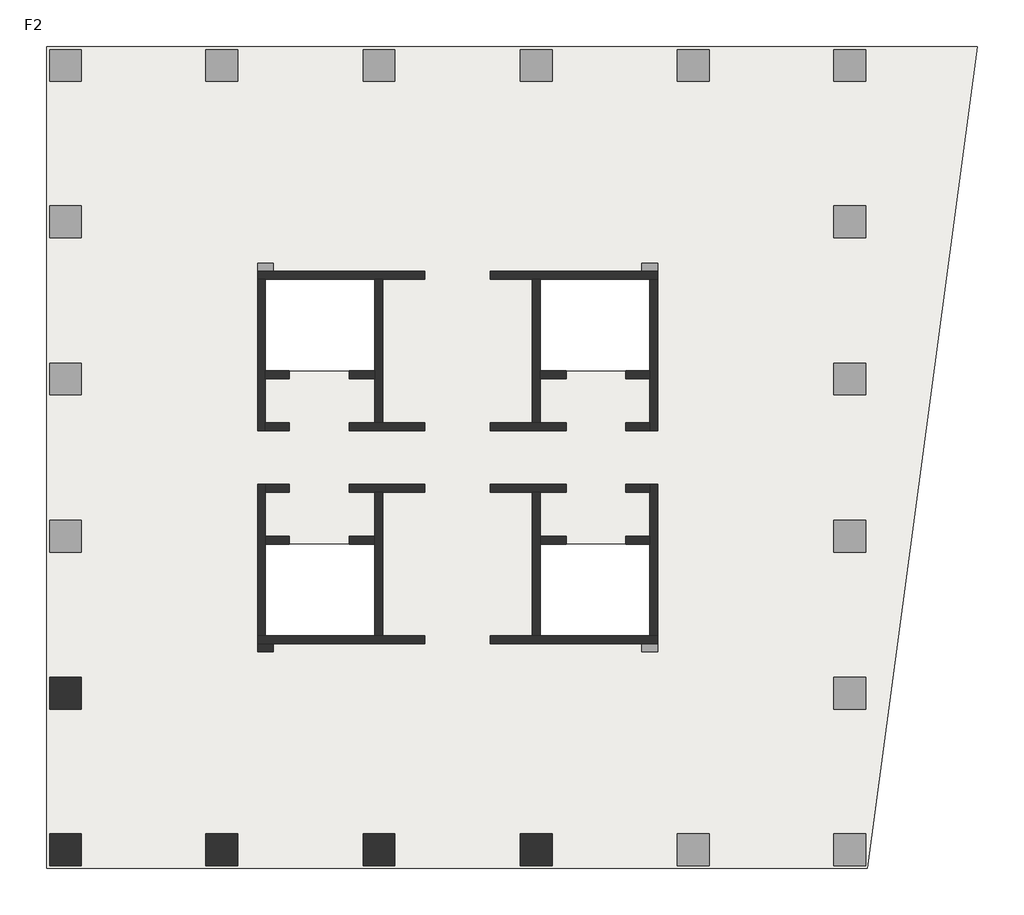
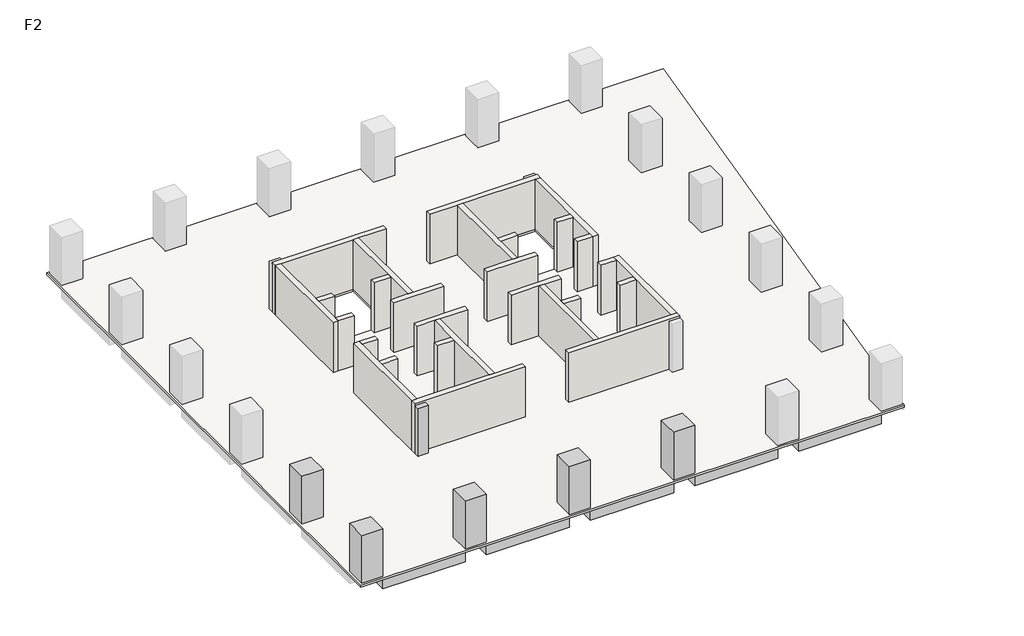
# One storey, part 1 of 2: 28 walls, 6 columns, 5 beams, 1 slab.
"""IFC4 building model written with IfcOpenShell, lengths in millimetres."""

import ifcopenshell
import ifcopenshell.guid

model = None  # the IFC model being written
_history = None  # IfcOwnerHistory: only IFC2X3 demands one
_inside = {}  # id of a spatial element -> (the spatial element, [elements in it])
_under = {}  # id of a project, library or spatial element -> (it, [spatial elements below it])
_declared = {}  # id of a project -> (the project, [libraries it declares])
_typed = {}  # id of a type object -> (the type object, [elements of that type])
_made_of = {}  # id of a material, layer set ... -> (it, [elements and type objects made of it])


def new_model(schema):
    """Start an empty IFC model of exactly this schema.

    Asked for "IFC4X3", IfcOpenShell would pick the latest addendum, in which some entities
    have other attributes; the version numbers below select the first issue.
    IFC2X3 requires an IfcOwnerHistory on every rooted entity: one is made here for all.
    """
    global model, _history
    if schema == "IFC4X3":
        model = ifcopenshell.file(schema_version=(4, 3, 0, 0))
    else:
        model = ifcopenshell.file(schema=schema)
    _inside.clear()
    _under.clear()
    _declared.clear()
    _typed.clear()
    _made_of.clear()
    _history = None
    if model.schema == "IFC2X3":
        org = make("IfcOrganization", Name="unknown")
        user = make(
            "IfcPersonAndOrganization",
            ThePerson=make("IfcPerson", FamilyName="unknown"),
            TheOrganization=org,
        )
        app = make(
            "IfcApplication",
            ApplicationDeveloper=org,
            Version="unknown",
            ApplicationFullName="unknown",
            ApplicationIdentifier="unknown",
        )
        _history = make(
            "IfcOwnerHistory",
            OwningUser=user,
            OwningApplication=app,
            ChangeAction="ADDED",
            CreationDate=0,
        )
    return model


def make(cls, **values):
    """One entity of the class cls with the attributes given. An attribute that is None is left unset."""
    return model.create_entity(
        cls, **{name: value for name, value in values.items() if value is not None}
    )


def rooted(cls, **values):
    """An entity with a GlobalId (a new one), such as an element, a storey or a relation."""
    return make(cls, GlobalId=ifcopenshell.guid.new(), OwnerHistory=_history, **values)


def si_unit(unit_type, name, prefix=None):
    """IfcSIUnit, for example si_unit("LENGTHUNIT", "METRE", prefix="MILLI")."""
    return make("IfcSIUnit", UnitType=unit_type, Prefix=prefix, Name=name)


def assignment(units):
    """IfcUnitAssignment: the units of a project."""
    return None if units is None else make("IfcUnitAssignment", Units=units)


def point(xyz):
    """IfcCartesianPoint."""
    return None if xyz is None else make("IfcCartesianPoint", Coordinates=xyz)


def direction(xyz):
    """IfcDirection."""
    return None if xyz is None else make("IfcDirection", DirectionRatios=xyz)


def frame(location, z_axis=None, x_axis=None):
    """IfcAxis2Placement3D, a coordinate frame: its origin and axes. An axis left out is left unset."""
    return make(
        "IfcAxis2Placement3D",
        Location=point(location),
        Axis=direction(z_axis),
        RefDirection=direction(x_axis),
    )


def origin():
    """The frame at (0, 0, 0) with its axes left unset."""
    return frame((0.0, 0.0, 0.0))


def place(relative_to, where):
    """IfcLocalPlacement: puts the frame where relative to a parent placement (None: the world)."""
    return make(
        "IfcLocalPlacement", PlacementRelTo=relative_to, RelativePlacement=where
    )


def context(
    kind, dimensions, precision=None, world=None, true_north=None, identifier=None
):
    """IfcGeometricRepresentationContext, for example the 3D "Model" context."""
    return make(
        "IfcGeometricRepresentationContext",
        ContextIdentifier=identifier,
        ContextType=kind,
        CoordinateSpaceDimension=dimensions,
        Precision=precision,
        WorldCoordinateSystem=world,
        TrueNorth=true_north,
    )


def project(units=None, contexts=None):
    """IfcProject with its units and contexts."""
    return rooted(
        "IfcProject",
        Name="project",
        RepresentationContexts=contexts,
        UnitsInContext=assignment(units),
    )


def spatial(cls, under=None, at=None, **own):
    """A site, building, storey or space (cls), placed at a placement, below another one or the project."""
    s = rooted(cls, ObjectPlacement=at, **own)
    if under is not None:
        _under.setdefault(under.id(), (under, []))[1].append(s)
    return s


def polyline(points):
    """IfcPolyline through the points."""
    return make("IfcPolyline", Points=[point(p) for p in points])


def outline(outer, holes=None, kind="AREA"):
    """IfcArbitraryClosedProfileDef: a profile drawn as a closed curve; with holes, ...WithVoids."""
    if holes is None:
        return make("IfcArbitraryClosedProfileDef", ProfileType=kind, OuterCurve=outer)
    return make(
        "IfcArbitraryProfileDefWithVoids",
        ProfileType=kind,
        OuterCurve=outer,
        InnerCurves=holes,
    )


def extrude(swept, where, along, depth):
    """IfcExtrudedAreaSolid: the profile swept, set in the frame where, extruded along a direction by depth."""
    return make(
        "IfcExtrudedAreaSolid",
        SweptArea=swept,
        Position=where,
        ExtrudedDirection=direction(along),
        Depth=depth,
    )


def faces_of(points, faces, orient=None, outer=None):
    """IfcFace entities. A face is a list of loops; a loop is a list of indices into points, from 0.

    orient and outer hold one flag for each loop. By default every Orientation is true, the
    first loop of a face is its IfcFaceOuterBound and the others are IfcFaceBound.
    """
    made = []
    for i, loops in enumerate(faces):
        bounds = []
        for j, loop in enumerate(loops):
            is_outer = j == 0 if outer is None else outer[i][j]
            bounds.append(
                make(
                    "IfcFaceOuterBound" if is_outer else "IfcFaceBound",
                    Bound=make("IfcPolyLoop", Polygon=[points[k] for k in loop]),
                    Orientation=True if orient is None else orient[i][j],
                )
            )
        made.append(make("IfcFace", Bounds=bounds))
    return made


def faceted_brep(points, faces, orient=None, outer=None, voids=None):
    """IfcFacetedBrep: a solid bounded by flat faces; with voids (closed shells), ...WithVoids."""
    shared = [point(p) for p in points]
    hull = make("IfcClosedShell", CfsFaces=faces_of(shared, faces, orient, outer))
    if voids is None:
        return make("IfcFacetedBrep", Outer=hull)
    return make(
        "IfcFacetedBrepWithVoids",
        Outer=hull,
        Voids=[
            make(cls, CfsFaces=faces_of(shared, fs, o, b)) for cls, fs, o, b in voids
        ],
    )


def shape(context_of_items, identifier, shape_type, items):
    """IfcShapeRepresentation: the items that make up one representation, for example the "Body"."""
    return make(
        "IfcShapeRepresentation",
        ContextOfItems=context_of_items,
        RepresentationIdentifier=identifier,
        RepresentationType=shape_type,
        Items=items,
    )


def made_of(thing, what):
    """Note that an element or type object is made of a material, layer set ...; save() writes the relation."""
    if what is not None:
        _made_of.setdefault(what.id(), (what, []))[1].append(thing)
    return thing


def element(
    cls,
    number,
    at=None,
    inside=None,
    cuts=None,
    type_object=None,
    material=None,
    context=None,
    identifier="Body",
    shape_type=None,
    held_by="IfcProductDefinitionShape",
    body=None,
    shapes=None,
    **own,
):
    """One element of the class cls, such as IfcWall. Its Tag is "e" and its number.

    at: its placement. inside: the storey or other place that contains it. cuts: it is an
    opening in that element (IfcRelVoidsElement). A single representation is given by context,
    identifier, shape_type and body (its items); several are given by shapes. held_by: the class
    of the entity that holds the representations. save() writes the other relations.
    """
    e = rooted(cls, Tag="e%d" % number, ObjectPlacement=at, **own)
    if body is not None:
        shapes = [shape(context, identifier, shape_type, body)]
    if shapes is not None:
        e.Representation = make(held_by, Representations=shapes)
    if inside is not None:
        _inside.setdefault(inside.id(), (inside, []))[1].append(e)
    if cuts is not None:
        rooted(
            "IfcRelVoidsElement", RelatingBuildingElement=cuts, RelatedOpeningElement=e
        )
    if type_object is not None:
        _typed.setdefault(type_object.id(), (type_object, []))[1].append(e)
    return made_of(e, material)


def aggregate(whole, parts):
    """IfcRelAggregates: a whole, such as a stair, and the parts it consists of."""
    return rooted("IfcRelAggregates", RelatingObject=whole, RelatedObjects=parts)


def save(model, path):
    """Write the relations noted so far, then the file.

    IfcRelAggregates (storeys below a building ...), IfcRelContainedInSpatialStructure (elements
    in a storey), IfcRelDefinesByType, IfcRelAssociatesMaterial and IfcRelDeclares: one each for
    every whole, place, type object, material and project.
    """
    for whole, parts in _under.values():
        aggregate(whole, parts)
    for where, things in _inside.values():
        rooted(
            "IfcRelContainedInSpatialStructure",
            RelatedElements=things,
            RelatingStructure=where,
        )
    for kind, things in _typed.values():
        rooted("IfcRelDefinesByType", RelatedObjects=things, RelatingType=kind)
    for what, things in _made_of.values():
        rooted("IfcRelAssociatesMaterial", RelatedObjects=things, RelatingMaterial=what)
    for by, libraries in _declared.values():
        rooted("IfcRelDeclares", RelatingContext=by, RelatedDefinitions=libraries)
    model.write(path)


model = new_model("IFC4")

# Units and contexts
model_context = context("Model", 3, world=origin())
ifc_project = project(units=[si_unit("LENGTHUNIT", "METRE", prefix="MILLI")], contexts=[model_context])

# Site, building, storey
site = spatial("IfcSite", under=ifc_project)
building = spatial("IfcBuilding", under=site)
storey = spatial("IfcBuildingStorey", under=building, Name="F2", Elevation=8000.0)

# Beams
placement = place(None, origin())
element("IfcBeam", 1, ObjectType="混凝土 - 矩形梁 : KL(5)-800x1000", at=placement, inside=storey, context=model_context, shape_type="SweptSolid", body=[
    extrude(outline(polyline([(-12472.6742169, -13948.9501342), (-12472.6742169, -13148.9501342), (-6222.6742169, -13148.9501342), (-6222.6742169, -13948.9501342), (-12472.6742169, -13948.9501342)])), frame((0.0, 0.0, 7000.0), z_axis=(0.0, 0.0, 1.0), x_axis=(1.0, 0.0, 0.0)), (0.0, 0.0, 1.0), 840.0),
    extrude(outline(polyline([(25327.3257831, -13148.9501342), (25327.3257831, -13948.9501342), (19077.3257831, -13948.9501342), (19077.3257831, -13148.9501342), (25327.3257831, -13148.9501342)])), frame((0.0, 0.0, 7000.0), z_axis=(0.0, 0.0, 1.0), x_axis=(1.0, 0.0, 0.0)), (0.0, 0.0, 1.0), 840.0),
    extrude(outline(polyline([(-4622.6742169, -13948.9501342), (-4622.6742169, -13148.9501342), (1677.3257831, -13148.9501342), (1677.3257831, -13948.9501342), (-4622.6742169, -13948.9501342)])), frame((0.0, 0.0, 7000.0), z_axis=(0.0, 0.0, 1.0), x_axis=(1.0, 0.0, 0.0)), (0.0, 0.0, 1.0), 840.0),
    extrude(outline(polyline([(3277.3257831, -13948.9501342), (3277.3257831, -13148.9501342), (9577.3257831, -13148.9501342), (9577.3257831, -13948.9501342), (3277.3257831, -13948.9501342)])), frame((0.0, 0.0, 7000.0), z_axis=(0.0, 0.0, 1.0), x_axis=(1.0, 0.0, 0.0)), (0.0, 0.0, 1.0), 840.0),
    extrude(outline(polyline([(11177.3257831, -13948.9501342), (11177.3257831, -13148.9501342), (17477.3257831, -13148.9501342), (17477.3257831, -13948.9501342), (11177.3257831, -13948.9501342)])), frame((0.0, 0.0, 7000.0), z_axis=(0.0, 0.0, 1.0), x_axis=(1.0, 0.0, 0.0)), (0.0, 0.0, 1.0), 840.0),
])
element("IfcBeam", 2, ObjectType="混凝土 - 矩形梁 : L1-800x500", at=placement, inside=storey, context=model_context, shape_type="Brep", body=[
    faceted_brep([(-12472.6742169, -5512.1353397, 7500.0), (-3746.9473979, -3341.556529, 7500.0), (-3173.6696907, -3198.9501342, 7500.0), (-3173.6696907, -3198.9501342, 7840.0), (-3746.9473979, -3341.556529, 7840.0), (-12472.6742169, -5512.1353397, 7840.0), (-3622.6742169, -3198.9501342, 7500.0), (-12472.6742169, -4687.7549784, 7500.0), (-3622.6742169, -2486.2624411, 7500.0), (-3622.6742169, -2798.9501342, 7500.0), (-12472.6742169, -4687.7549784, 7840.0), (-3622.6742169, -2486.2624411, 7840.0), (-3622.6742169, -3198.9501342, 7840.0)], [[[0, 1, 2, 3, 4, 5]], [[6, 2, 1, 0, 7, 8, 9]], [[8, 7, 10, 11]], [[2, 6, 12, 3]], [[9, 8, 11, 12, 6]], [[7, 0, 5, 10]], [[5, 4, 3, 12, 11, 10]]]),
])
element("IfcBeam", 3, ObjectType="混凝土 - 矩形梁 : L1-800x500", at=placement, inside=storey, context=model_context, shape_type="SweptSolid", body=[
    extrude(outline(polyline([(-3746.9473979, -3341.556529), (-3173.6696907, -3198.9501342), (-2898.7618154, -3198.9501342), (-4843.6893517, -12348.9501342), (-5661.5624638, -12348.9501342), (-3746.9473979, -3341.556529)])), frame((0.0, 0.0, 7500.0), z_axis=(0.0, 0.0, 1.0), x_axis=(1.0, 0.0, 0.0)), (0.0, 0.0, 1.0), 340.0),
])
element("IfcBeam", 4, ObjectType="混凝土 - 矩形梁 : L1-800x500", at=placement, inside=storey, context=model_context, shape_type="SweptSolid", body=[
    extrude(outline(polyline([(2877.3257831, -12348.9501342), (2077.3257831, -12348.9501342), (2077.3257831, -2798.9501342), (2877.3257831, -2798.9501342), (2877.3257831, -12348.9501342)])), frame((0.0, 0.0, 7500.0), z_axis=(0.0, 0.0, 1.0), x_axis=(1.0, 0.0, 0.0)), (0.0, 0.0, 1.0), 340.0),
])
element("IfcBeam", 5, ObjectType="混凝土 - 矩形梁 : L1-800x500", at=placement, inside=storey, context=model_context, shape_type="SweptSolid", body=[
    extrude(outline(polyline([(10777.3257831, -12348.9501342), (9977.3257831, -12348.9501342), (9977.3257831, -2798.9501342), (10777.3257831, -2798.9501342), (10777.3257831, -12348.9501342)])), frame((0.0, 0.0, 7500.0), z_axis=(0.0, 0.0, 1.0), x_axis=(1.0, 0.0, 0.0)), (0.0, 0.0, 1.0), 340.0),
])

# Columns
element("IfcColumn", 6, ObjectType="混凝土 - 矩形 - 柱 : Z1-1600x1600", at=placement, inside=storey, context=model_context, shape_type="Brep", body=[
    faceted_brep([(-12472.6742169, -4498.9501342, 8000.0), (-12472.6742169, -6098.9501342, 8000.0), (-14072.6742169, -6098.9501342, 8000.0), (-14072.6742169, -4498.9501342, 8000.0), (-12472.6742169, -4498.9501342, 11840.0), (-12472.6742169, -6098.9501342, 11840.0), (-13272.6742169, -6098.9501342, 11840.0), (-14072.6742169, -6098.9501342, 11840.0), (-14072.6742169, -6098.9501342, 11000.0), (-14072.6742169, -4498.9501342, 11840.0), (-14072.6742169, -4498.9501342, 11000.0), (-13272.6742169, -4498.9501342, 11840.0)], [[[0, 1, 2, 3]], [[1, 0, 4, 5]], [[2, 1, 5, 6, 7, 8]], [[3, 2, 8, 7, 9, 10]], [[0, 3, 10, 9, 11, 4]], [[5, 4, 11, 9, 7, 6]]]),
])
element("IfcColumn", 7, ObjectType="混凝土 - 矩形 - 柱 : Z1-1600x1600", at=placement, inside=storey, context=model_context, shape_type="SweptSolid", body=[
    extrude(outline(polyline([(-12472.6742169, -12348.9501342), (-12472.6742169, -13948.9501342), (-14072.6742169, -13948.9501342), (-14072.6742169, -12348.9501342), (-12472.6742169, -12348.9501342)])), frame((0.0, 0.0, 8000.0), z_axis=(0.0, 0.0, 1.0), x_axis=(1.0, 0.0, 0.0)), (0.0, 0.0, 1.0), 3840.0),
])
element("IfcColumn", 8, ObjectType="混凝土 - 矩形 - 柱 : Z1-1600x1600", at=placement, inside=storey, context=model_context, shape_type="Brep", body=[
    faceted_brep([(-4622.6742169, -12348.9501342, 8000.0), (-4622.6742169, -13948.9501342, 8000.0), (-6222.6742169, -13948.9501342, 8000.0), (-6222.6742169, -12348.9501342, 8000.0), (-4622.6742169, -12348.9501342, 11840.0), (-4622.6742169, -13148.9501342, 11840.0), (-4622.6742169, -13948.9501342, 11840.0), (-4622.6742169, -13948.9501342, 11000.0), (-6222.6742169, -13948.9501342, 11840.0), (-6222.6742169, -13948.9501342, 11000.0), (-6222.6742169, -13148.9501342, 11840.0), (-6222.6742169, -12348.9501342, 11840.0)], [[[0, 1, 2, 3]], [[1, 0, 4, 5, 6, 7]], [[2, 1, 7, 6, 8, 9]], [[3, 2, 9, 8, 10, 11]], [[0, 3, 11, 4]], [[6, 5, 4, 11, 10, 8]]]),
])
element("IfcColumn", 9, ObjectType="混凝土 - 矩形 - 柱 : Z1-1600x1600", at=placement, inside=storey, context=model_context, shape_type="Brep", body=[
    faceted_brep([(3277.3257831, -12348.9501342, 8000.0), (3277.3257831, -13948.9501342, 8000.0), (1677.3257831, -13948.9501342, 8000.0), (1677.3257831, -12348.9501342, 8000.0), (3277.3257831, -12348.9501342, 11840.0), (3277.3257831, -13148.9501342, 11840.0), (3277.3257831, -13948.9501342, 11840.0), (3277.3257831, -13948.9501342, 11000.0), (1677.3257831, -13948.9501342, 11840.0), (1677.3257831, -13948.9501342, 11000.0), (1677.3257831, -13148.9501342, 11840.0), (1677.3257831, -12348.9501342, 11840.0)], [[[0, 1, 2, 3]], [[1, 0, 4, 5, 6, 7]], [[2, 1, 7, 6, 8, 9]], [[3, 2, 9, 8, 10, 11]], [[0, 3, 11, 4]], [[6, 5, 4, 11, 10, 8]]]),
])
element("IfcColumn", 10, ObjectType="混凝土 - 矩形 - 柱 : Z1-1600x1600", at=placement, inside=storey, context=model_context, shape_type="Brep", body=[
    faceted_brep([(11177.3257831, -12348.9501342, 8000.0), (11177.3257831, -13948.9501342, 8000.0), (9577.3257831, -13948.9501342, 8000.0), (9577.3257831, -12348.9501342, 8000.0), (11177.3257831, -12348.9501342, 11840.0), (11177.3257831, -13148.9501342, 11840.0), (11177.3257831, -13948.9501342, 11840.0), (11177.3257831, -13948.9501342, 11000.0), (9577.3257831, -13948.9501342, 11840.0), (9577.3257831, -13948.9501342, 11000.0), (9577.3257831, -13148.9501342, 11840.0), (9577.3257831, -12348.9501342, 11840.0)], [[[0, 1, 2, 3]], [[1, 0, 4, 5, 6, 7]], [[2, 1, 7, 6, 8, 9]], [[3, 2, 9, 8, 10, 11]], [[0, 3, 11, 4]], [[6, 5, 4, 11, 10, 8]]]),
])
element("IfcColumn", 11, ObjectType="混凝土 - 矩形 - 柱 : Z2-800x800", at=placement, inside=storey, context=model_context, shape_type="SweptSolid", body=[
    extrude(outline(polyline([(-2822.6742169, -3198.9501342), (-3622.6742169, -3198.9501342), (-3622.6742169, -2798.9501342), (-2822.6742169, -2798.9501342), (-2822.6742169, -3198.9501342)])), frame((0.0, 0.0, 8000.0), z_axis=(0.0, 0.0, 1.0), x_axis=(1.0, 0.0, 0.0)), (0.0, 0.0, 1.0), 3840.0),
])

# Slab
element("IfcSlab", 12, ObjectType="LB-160", at=placement, inside=storey, context=model_context, shape_type="Brep", body=[
    faceted_brep([(32549.4477343, 27201.0498658, 7840.0), (32422.0087099, 26251.0498658, 7840.0), (27029.3257831, -13948.9501342, 7840.0), (27011.0393465, -14085.2672073, 7840.0), (-14222.6742169, -14085.2672073, 7840.0), (-14222.6742169, 27201.0498658, 7840.0), (2277.3257831, 15501.0498658, 7840.0), (-3222.6742169, 15501.0498658, 7840.0), (-3222.6742169, 10901.0498658, 7840.0), (2277.3257831, 10901.0498658, 7840.0), (2277.3257831, 2201.0498658, 7840.0), (-3222.6742169, 2201.0498658, 7840.0), (-3222.6742169, -2398.9501342, 7840.0), (2277.3257831, -2398.9501342, 7840.0), (16077.3257831, 2201.0498658, 7840.0), (10577.3257831, 2201.0498658, 7840.0), (10577.3257831, -2398.9501342, 7840.0), (16077.3257831, -2398.9501342, 7840.0), (16077.3257831, 15501.0498658, 7840.0), (10577.3257831, 15501.0498658, 7840.0), (10577.3257831, 10901.0498658, 7840.0), (16077.3257831, 10901.0498658, 7840.0), (32549.4477343, 27201.0498658, 8000.0), (-14222.6742169, 27201.0498658, 8000.0), (-14222.6742169, -14085.2672073, 8000.0), (27011.0393465, -14085.2672073, 8000.0), (2277.3257831, 15501.0498658, 8000.0), (2277.3257831, 10901.0498658, 8000.0), (-3222.6742169, 10901.0498658, 8000.0), (-3222.6742169, 15501.0498658, 8000.0), (2277.3257831, 2201.0498658, 8000.0), (2277.3257831, -2398.9501342, 8000.0), (-3222.6742169, -2398.9501342, 8000.0), (-3222.6742169, 2201.0498658, 8000.0), (16077.3257831, 2201.0498658, 8000.0), (16077.3257831, -2398.9501342, 8000.0), (10577.3257831, -2398.9501342, 8000.0), (10577.3257831, 2201.0498658, 8000.0), (16077.3257831, 15501.0498658, 8000.0), (16077.3257831, 10901.0498658, 8000.0), (10577.3257831, 10901.0498658, 8000.0), (10577.3257831, 15501.0498658, 8000.0)], [[[0, 1, 2, 3, 4, 5], [6, 7, 8, 9], [10, 11, 12, 13], [14, 15, 16, 17], [18, 19, 20, 21]], [[22, 23, 24, 25], [26, 27, 28, 29], [30, 31, 32, 33], [34, 35, 36, 37], [38, 39, 40, 41]], [[3, 2, 1, 0, 22, 25]], [[4, 3, 25, 24]], [[5, 4, 24, 23]], [[0, 5, 23, 22]], [[7, 6, 26, 29]], [[8, 7, 29, 28]], [[9, 8, 28, 27]], [[6, 9, 27, 26]], [[11, 10, 30, 33]], [[12, 11, 33, 32]], [[13, 12, 32, 31]], [[10, 13, 31, 30]], [[15, 14, 34, 37]], [[16, 15, 37, 36]], [[17, 16, 36, 35]], [[14, 17, 35, 34]], [[19, 18, 38, 41]], [[20, 19, 41, 40]], [[21, 20, 40, 39]], [[18, 21, 39, 38]]]),
])

# Walls
element("IfcWall", 13, ObjectType="剪力墙-400", at=placement, inside=storey, context=model_context, shape_type="Brep", body=[
    faceted_brep([(-3622.6742169, 15501.0498658, 8000.0), (-3222.6742169, 15501.0498658, 8000.0), (2277.3257831, 15501.0498658, 8000.0), (2677.3257831, 15501.0498658, 8000.0), (4777.3257831, 15501.0498658, 8000.0), (4777.3257831, 15501.0498658, 12000.0), (2677.3257831, 15501.0498658, 12000.0), (2277.3257831, 15501.0498658, 12000.0), (-3222.6742169, 15501.0498658, 12000.0), (-3622.6742169, 15501.0498658, 12000.0), (-3622.6742169, 15901.0498658, 8000.0), (-3622.6742169, 15901.0498658, 11840.0), (-3622.6742169, 15901.0498658, 12000.0), (4777.3257831, 15901.0498658, 12000.0), (4777.3257831, 15901.0498658, 8000.0), (-2822.6742169, 15901.0498658, 8000.0)], [[[0, 1, 2, 3, 4, 5, 6, 7, 8, 9]], [[10, 11, 12, 13, 14, 15]], [[4, 3, 2, 1, 0, 10, 15, 14]], [[5, 4, 14, 13]], [[9, 8, 7, 6, 5, 13, 12]], [[0, 9, 12, 11, 10]]]),
])
element("IfcWall", 14, ObjectType="剪力墙-400", at=placement, inside=storey, context=model_context, shape_type="Brep", body=[
    faceted_brep([(2277.3257831, 15501.0498658, 8000.0), (2277.3257831, 10901.0498658, 8000.0), (2277.3257831, 10501.0498658, 8000.0), (2277.3257831, 8301.0498658, 8000.0), (2277.3257831, 8301.0498658, 12000.0), (2277.3257831, 10501.0498658, 12000.0), (2277.3257831, 10901.0498658, 12000.0), (2277.3257831, 15501.0498658, 12000.0), (2677.3257831, 15501.0498658, 8000.0), (2677.3257831, 15501.0498658, 12000.0), (2677.3257831, 8301.0498658, 12000.0), (2677.3257831, 8301.0498658, 8000.0)], [[[0, 1, 2, 3, 4, 5, 6, 7]], [[8, 9, 10, 11]], [[3, 2, 1, 0, 8, 11]], [[7, 6, 5, 4, 10, 9]], [[0, 7, 9, 8]], [[4, 3, 11, 10]]]),
])
element("IfcWall", 15, ObjectType="剪力墙-400", at=placement, inside=storey, context=model_context, shape_type="Brep", body=[
    faceted_brep([(-3622.6742169, 15501.0498658, 8000.0), (-3622.6742169, 7901.0498658, 8000.0), (-3622.6742169, 7901.0498658, 12000.0), (-3622.6742169, 15501.0498658, 12000.0), (-3222.6742169, 15501.0498658, 8000.0), (-3222.6742169, 15501.0498658, 12000.0), (-3222.6742169, 10901.0498658, 12000.0), (-3222.6742169, 10501.0498658, 12000.0), (-3222.6742169, 8301.0498658, 12000.0), (-3222.6742169, 7901.0498658, 12000.0), (-3222.6742169, 7901.0498658, 8000.0), (-3222.6742169, 8301.0498658, 8000.0), (-3222.6742169, 10501.0498658, 8000.0), (-3222.6742169, 10901.0498658, 8000.0)], [[[0, 1, 2, 3]], [[4, 5, 6, 7, 8, 9, 10, 11, 12, 13]], [[1, 0, 4, 13, 12, 11, 10]], [[3, 2, 9, 8, 7, 6, 5]], [[0, 3, 5, 4]], [[2, 1, 10, 9]]]),
])
element("IfcWall", 16, ObjectType="剪力墙-400", at=placement, inside=storey, context=model_context, shape_type="SweptSolid", body=[
    extrude(outline(polyline([(-2022.6742169, 7901.0498658), (-3222.6742169, 7901.0498658), (-3222.6742169, 8301.0498658), (-2022.6742169, 8301.0498658), (-2022.6742169, 7901.0498658)])), frame((0.0, 0.0, 8000.0), z_axis=(0.0, 0.0, 1.0), x_axis=(1.0, 0.0, 0.0)), (0.0, 0.0, 1.0), 4000.0),
])
element("IfcWall", 17, ObjectType="剪力墙-400", at=placement, inside=storey, context=model_context, shape_type="Brep", body=[
    faceted_brep([(977.3257831, 7901.0498658, 8000.0), (4777.3257831, 7901.0498658, 8000.0), (4777.3257831, 7901.0498658, 12000.0), (977.3257831, 7901.0498658, 12000.0), (977.3257831, 8301.0498658, 8000.0), (977.3257831, 8301.0498658, 12000.0), (2277.3257831, 8301.0498658, 12000.0), (2677.3257831, 8301.0498658, 12000.0), (4777.3257831, 8301.0498658, 12000.0), (4777.3257831, 8301.0498658, 8000.0), (2677.3257831, 8301.0498658, 8000.0), (2277.3257831, 8301.0498658, 8000.0)], [[[0, 1, 2, 3]], [[4, 5, 6, 7, 8, 9, 10, 11]], [[1, 0, 4, 11, 10, 9]], [[2, 1, 9, 8]], [[3, 2, 8, 7, 6, 5]], [[0, 3, 5, 4]]]),
])
element("IfcWall", 18, ObjectType="剪力墙-400", at=placement, inside=storey, context=model_context, shape_type="SweptSolid", body=[
    extrude(outline(polyline([(-2022.6742169, 10501.0498658), (-3222.6742169, 10501.0498658), (-3222.6742169, 10901.0498658), (-2022.6742169, 10901.0498658), (-2022.6742169, 10501.0498658)])), frame((0.0, 0.0, 8000.0), z_axis=(0.0, 0.0, 1.0), x_axis=(1.0, 0.0, 0.0)), (0.0, 0.0, 1.0), 4000.0),
])
element("IfcWall", 19, ObjectType="剪力墙-400", at=placement, inside=storey, context=model_context, shape_type="SweptSolid", body=[
    extrude(outline(polyline([(2277.3257831, 10501.0498658), (977.3257831, 10501.0498658), (977.3257831, 10901.0498658), (2277.3257831, 10901.0498658), (2277.3257831, 10501.0498658)])), frame((0.0, 0.0, 8000.0), z_axis=(0.0, 0.0, 1.0), x_axis=(1.0, 0.0, 0.0)), (0.0, 0.0, 1.0), 4000.0),
])
element("IfcWall", 20, ObjectType="剪力墙-400", at=placement, inside=storey, context=model_context, shape_type="Brep", body=[
    faceted_brep([(16477.3257831, 15901.0498658, 8000.0), (15677.3257831, 15901.0498658, 8000.0), (8077.3257831, 15901.0498658, 8000.0), (8077.3257831, 15901.0498658, 12000.0), (16477.3257831, 15901.0498658, 12000.0), (16477.3257831, 15901.0498658, 11840.0), (16477.3257831, 15501.0498658, 8000.0), (16477.3257831, 15501.0498658, 12000.0), (16077.3257831, 15501.0498658, 12000.0), (10577.3257831, 15501.0498658, 12000.0), (10177.3257831, 15501.0498658, 12000.0), (8077.3257831, 15501.0498658, 12000.0), (8077.3257831, 15501.0498658, 8000.0), (10177.3257831, 15501.0498658, 8000.0), (10577.3257831, 15501.0498658, 8000.0), (16077.3257831, 15501.0498658, 8000.0)], [[[0, 1, 2, 3, 4, 5]], [[6, 7, 8, 9, 10, 11, 12, 13, 14, 15]], [[2, 1, 0, 6, 15, 14, 13, 12]], [[3, 2, 12, 11]], [[4, 3, 11, 10, 9, 8, 7]], [[0, 5, 4, 7, 6]]]),
])
element("IfcWall", 21, ObjectType="剪力墙-400", at=placement, inside=storey, context=model_context, shape_type="Brep", body=[
    faceted_brep([(10177.3257831, 15501.0498658, 8000.0), (10177.3257831, 8301.0498658, 8000.0), (10177.3257831, 8301.0498658, 12000.0), (10177.3257831, 15501.0498658, 12000.0), (10577.3257831, 15501.0498658, 8000.0), (10577.3257831, 15501.0498658, 12000.0), (10577.3257831, 10901.0498658, 12000.0), (10577.3257831, 10501.0498658, 12000.0), (10577.3257831, 8301.0498658, 12000.0), (10577.3257831, 8301.0498658, 8000.0), (10577.3257831, 10501.0498658, 8000.0), (10577.3257831, 10901.0498658, 8000.0)], [[[0, 1, 2, 3]], [[4, 5, 6, 7, 8, 9, 10, 11]], [[1, 0, 4, 11, 10, 9]], [[3, 2, 8, 7, 6, 5]], [[0, 3, 5, 4]], [[2, 1, 9, 8]]]),
])
element("IfcWall", 22, ObjectType="剪力墙-400", at=placement, inside=storey, context=model_context, shape_type="Brep", body=[
    faceted_brep([(16077.3257831, 15501.0498658, 8000.0), (16077.3257831, 10901.0498658, 8000.0), (16077.3257831, 10501.0498658, 8000.0), (16077.3257831, 8301.0498658, 8000.0), (16077.3257831, 7901.0498658, 8000.0), (16077.3257831, 7901.0498658, 12000.0), (16077.3257831, 8301.0498658, 12000.0), (16077.3257831, 10501.0498658, 12000.0), (16077.3257831, 10901.0498658, 12000.0), (16077.3257831, 15501.0498658, 12000.0), (16477.3257831, 15501.0498658, 8000.0), (16477.3257831, 15501.0498658, 12000.0), (16477.3257831, 7901.0498658, 12000.0), (16477.3257831, 7901.0498658, 8000.0)], [[[0, 1, 2, 3, 4, 5, 6, 7, 8, 9]], [[10, 11, 12, 13]], [[4, 3, 2, 1, 0, 10, 13]], [[9, 8, 7, 6, 5, 12, 11]], [[0, 9, 11, 10]], [[5, 4, 13, 12]]]),
])
element("IfcWall", 23, ObjectType="剪力墙-400", at=placement, inside=storey, context=model_context, shape_type="SweptSolid", body=[
    extrude(outline(polyline([(14877.3257831, 8301.0498658), (16077.3257831, 8301.0498658), (16077.3257831, 7901.0498658), (14877.3257831, 7901.0498658), (14877.3257831, 8301.0498658)])), frame((0.0, 0.0, 8000.0), z_axis=(0.0, 0.0, 1.0), x_axis=(1.0, 0.0, 0.0)), (0.0, 0.0, 1.0), 4000.0),
])
element("IfcWall", 24, ObjectType="剪力墙-400", at=placement, inside=storey, context=model_context, shape_type="Brep", body=[
    faceted_brep([(11877.3257831, 8301.0498658, 8000.0), (10577.3257831, 8301.0498658, 8000.0), (10177.3257831, 8301.0498658, 8000.0), (8077.3257831, 8301.0498658, 8000.0), (8077.3257831, 8301.0498658, 12000.0), (10177.3257831, 8301.0498658, 12000.0), (10577.3257831, 8301.0498658, 12000.0), (11877.3257831, 8301.0498658, 12000.0), (11877.3257831, 7901.0498658, 8000.0), (11877.3257831, 7901.0498658, 12000.0), (8077.3257831, 7901.0498658, 12000.0), (8077.3257831, 7901.0498658, 8000.0)], [[[0, 1, 2, 3, 4, 5, 6, 7]], [[8, 9, 10, 11]], [[3, 2, 1, 0, 8, 11]], [[4, 3, 11, 10]], [[7, 6, 5, 4, 10, 9]], [[0, 7, 9, 8]]]),
])
element("IfcWall", 25, ObjectType="剪力墙-400", at=placement, inside=storey, context=model_context, shape_type="SweptSolid", body=[
    extrude(outline(polyline([(14877.3257831, 10901.0498658), (16077.3257831, 10901.0498658), (16077.3257831, 10501.0498658), (14877.3257831, 10501.0498658), (14877.3257831, 10901.0498658)])), frame((0.0, 0.0, 8000.0), z_axis=(0.0, 0.0, 1.0), x_axis=(1.0, 0.0, 0.0)), (0.0, 0.0, 1.0), 4000.0),
])
element("IfcWall", 26, ObjectType="剪力墙-400", at=placement, inside=storey, context=model_context, shape_type="SweptSolid", body=[
    extrude(outline(polyline([(10577.3257831, 10901.0498658), (11877.3257831, 10901.0498658), (11877.3257831, 10501.0498658), (10577.3257831, 10501.0498658), (10577.3257831, 10901.0498658)])), frame((0.0, 0.0, 8000.0), z_axis=(0.0, 0.0, 1.0), x_axis=(1.0, 0.0, 0.0)), (0.0, 0.0, 1.0), 4000.0),
])
element("IfcWall", 27, ObjectType="剪力墙-400", at=placement, inside=storey, context=model_context, shape_type="Brep", body=[
    faceted_brep([(-3622.6742169, -2798.9501342, 8000.0), (-2822.6742169, -2798.9501342, 8000.0), (4777.3257831, -2798.9501342, 8000.0), (4777.3257831, -2798.9501342, 12000.0), (-3622.6742169, -2798.9501342, 12000.0), (-3622.6742169, -2798.9501342, 11840.0), (-3622.6742169, -2398.9501342, 8000.0), (-3622.6742169, -2398.9501342, 12000.0), (-3222.6742169, -2398.9501342, 12000.0), (2277.3257831, -2398.9501342, 12000.0), (2677.3257831, -2398.9501342, 12000.0), (4777.3257831, -2398.9501342, 12000.0), (4777.3257831, -2398.9501342, 8000.0), (2677.3257831, -2398.9501342, 8000.0), (2277.3257831, -2398.9501342, 8000.0), (-3222.6742169, -2398.9501342, 8000.0)], [[[0, 1, 2, 3, 4, 5]], [[6, 7, 8, 9, 10, 11, 12, 13, 14, 15]], [[2, 1, 0, 6, 15, 14, 13, 12]], [[3, 2, 12, 11]], [[4, 3, 11, 10, 9, 8, 7]], [[0, 5, 4, 7, 6]]]),
])
element("IfcWall", 28, ObjectType="剪力墙-400", at=placement, inside=storey, context=model_context, shape_type="Brep", body=[
    faceted_brep([(2677.3257831, -2398.9501342, 8000.0), (2677.3257831, 4801.0498658, 8000.0), (2677.3257831, 4801.0498658, 12000.0), (2677.3257831, -2398.9501342, 12000.0), (2277.3257831, -2398.9501342, 8000.0), (2277.3257831, -2398.9501342, 12000.0), (2277.3257831, 2201.0498658, 12000.0), (2277.3257831, 2601.0498658, 12000.0), (2277.3257831, 4801.0498658, 12000.0), (2277.3257831, 4801.0498658, 8000.0), (2277.3257831, 2601.0498658, 8000.0), (2277.3257831, 2201.0498658, 8000.0)], [[[0, 1, 2, 3]], [[4, 5, 6, 7, 8, 9, 10, 11]], [[1, 0, 4, 11, 10, 9]], [[3, 2, 8, 7, 6, 5]], [[0, 3, 5, 4]], [[2, 1, 9, 8]]]),
])
element("IfcWall", 29, ObjectType="剪力墙-400", at=placement, inside=storey, context=model_context, shape_type="Brep", body=[
    faceted_brep([(-3222.6742169, -2398.9501342, 8000.0), (-3222.6742169, 2201.0498658, 8000.0), (-3222.6742169, 2601.0498658, 8000.0), (-3222.6742169, 4801.0498658, 8000.0), (-3222.6742169, 5201.0498658, 8000.0), (-3222.6742169, 5201.0498658, 12000.0), (-3222.6742169, 4801.0498658, 12000.0), (-3222.6742169, 2601.0498658, 12000.0), (-3222.6742169, 2201.0498658, 12000.0), (-3222.6742169, -2398.9501342, 12000.0), (-3622.6742169, -2398.9501342, 8000.0), (-3622.6742169, -2398.9501342, 12000.0), (-3622.6742169, 5201.0498658, 12000.0), (-3622.6742169, 5201.0498658, 8000.0)], [[[0, 1, 2, 3, 4, 5, 6, 7, 8, 9]], [[10, 11, 12, 13]], [[4, 3, 2, 1, 0, 10, 13]], [[9, 8, 7, 6, 5, 12, 11]], [[0, 9, 11, 10]], [[5, 4, 13, 12]]]),
])
element("IfcWall", 30, ObjectType="剪力墙-400", at=placement, inside=storey, context=model_context, shape_type="SweptSolid", body=[
    extrude(outline(polyline([(-2022.6742169, 4801.0498658), (-3222.6742169, 4801.0498658), (-3222.6742169, 5201.0498658), (-2022.6742169, 5201.0498658), (-2022.6742169, 4801.0498658)])), frame((0.0, 0.0, 8000.0), z_axis=(0.0, 0.0, 1.0), x_axis=(1.0, 0.0, 0.0)), (0.0, 0.0, 1.0), 4000.0),
])
element("IfcWall", 31, ObjectType="剪力墙-400", at=placement, inside=storey, context=model_context, shape_type="Brep", body=[
    faceted_brep([(977.3257831, 4801.0498658, 8000.0), (2277.3257831, 4801.0498658, 8000.0), (2677.3257831, 4801.0498658, 8000.0), (4777.3257831, 4801.0498658, 8000.0), (4777.3257831, 4801.0498658, 12000.0), (2677.3257831, 4801.0498658, 12000.0), (2277.3257831, 4801.0498658, 12000.0), (977.3257831, 4801.0498658, 12000.0), (977.3257831, 5201.0498658, 8000.0), (977.3257831, 5201.0498658, 12000.0), (4777.3257831, 5201.0498658, 12000.0), (4777.3257831, 5201.0498658, 8000.0)], [[[0, 1, 2, 3, 4, 5, 6, 7]], [[8, 9, 10, 11]], [[3, 2, 1, 0, 8, 11]], [[4, 3, 11, 10]], [[7, 6, 5, 4, 10, 9]], [[0, 7, 9, 8]]]),
])
element("IfcWall", 32, ObjectType="剪力墙-400", at=placement, inside=storey, context=model_context, shape_type="SweptSolid", body=[
    extrude(outline(polyline([(-2022.6742169, 2201.0498658), (-3222.6742169, 2201.0498658), (-3222.6742169, 2601.0498658), (-2022.6742169, 2601.0498658), (-2022.6742169, 2201.0498658)])), frame((0.0, 0.0, 8000.0), z_axis=(0.0, 0.0, 1.0), x_axis=(1.0, 0.0, 0.0)), (0.0, 0.0, 1.0), 4000.0),
])
element("IfcWall", 33, ObjectType="剪力墙-400", at=placement, inside=storey, context=model_context, shape_type="SweptSolid", body=[
    extrude(outline(polyline([(2277.3257831, 2201.0498658), (977.3257831, 2201.0498658), (977.3257831, 2601.0498658), (2277.3257831, 2601.0498658), (2277.3257831, 2201.0498658)])), frame((0.0, 0.0, 8000.0), z_axis=(0.0, 0.0, 1.0), x_axis=(1.0, 0.0, 0.0)), (0.0, 0.0, 1.0), 4000.0),
])
element("IfcWall", 34, ObjectType="剪力墙-400", at=placement, inside=storey, context=model_context, shape_type="Brep", body=[
    faceted_brep([(16477.3257831, -2398.9501342, 8000.0), (16077.3257831, -2398.9501342, 8000.0), (10577.3257831, -2398.9501342, 8000.0), (10177.3257831, -2398.9501342, 8000.0), (8077.3257831, -2398.9501342, 8000.0), (8077.3257831, -2398.9501342, 12000.0), (10177.3257831, -2398.9501342, 12000.0), (10577.3257831, -2398.9501342, 12000.0), (16077.3257831, -2398.9501342, 12000.0), (16477.3257831, -2398.9501342, 12000.0), (16477.3257831, -2798.9501342, 8000.0), (16477.3257831, -2798.9501342, 11840.0), (16477.3257831, -2798.9501342, 12000.0), (8077.3257831, -2798.9501342, 12000.0), (8077.3257831, -2798.9501342, 8000.0), (15677.3257831, -2798.9501342, 8000.0)], [[[0, 1, 2, 3, 4, 5, 6, 7, 8, 9]], [[10, 11, 12, 13, 14, 15]], [[4, 3, 2, 1, 0, 10, 15, 14]], [[5, 4, 14, 13]], [[9, 8, 7, 6, 5, 13, 12]], [[0, 9, 12, 11, 10]]]),
])
element("IfcWall", 35, ObjectType="剪力墙-400", at=placement, inside=storey, context=model_context, shape_type="Brep", body=[
    faceted_brep([(10577.3257831, -2398.9501342, 8000.0), (10577.3257831, 2201.0498658, 8000.0), (10577.3257831, 2601.0498658, 8000.0), (10577.3257831, 4801.0498658, 8000.0), (10577.3257831, 4801.0498658, 12000.0), (10577.3257831, 2601.0498658, 12000.0), (10577.3257831, 2201.0498658, 12000.0), (10577.3257831, -2398.9501342, 12000.0), (10177.3257831, -2398.9501342, 8000.0), (10177.3257831, -2398.9501342, 12000.0), (10177.3257831, 4801.0498658, 12000.0), (10177.3257831, 4801.0498658, 8000.0)], [[[0, 1, 2, 3, 4, 5, 6, 7]], [[8, 9, 10, 11]], [[3, 2, 1, 0, 8, 11]], [[7, 6, 5, 4, 10, 9]], [[0, 7, 9, 8]], [[4, 3, 11, 10]]]),
])
element("IfcWall", 36, ObjectType="剪力墙-400", at=placement, inside=storey, context=model_context, shape_type="Brep", body=[
    faceted_brep([(16477.3257831, -2398.9501342, 8000.0), (16477.3257831, 5201.0498658, 8000.0), (16477.3257831, 5201.0498658, 12000.0), (16477.3257831, -2398.9501342, 12000.0), (16077.3257831, -2398.9501342, 8000.0), (16077.3257831, -2398.9501342, 12000.0), (16077.3257831, 2201.0498658, 12000.0), (16077.3257831, 2601.0498658, 12000.0), (16077.3257831, 4801.0498658, 12000.0), (16077.3257831, 5201.0498658, 12000.0), (16077.3257831, 5201.0498658, 8000.0), (16077.3257831, 4801.0498658, 8000.0), (16077.3257831, 2601.0498658, 8000.0), (16077.3257831, 2201.0498658, 8000.0)], [[[0, 1, 2, 3]], [[4, 5, 6, 7, 8, 9, 10, 11, 12, 13]], [[1, 0, 4, 13, 12, 11, 10]], [[3, 2, 9, 8, 7, 6, 5]], [[0, 3, 5, 4]], [[2, 1, 10, 9]]]),
])
element("IfcWall", 37, ObjectType="剪力墙-400", at=placement, inside=storey, context=model_context, shape_type="SweptSolid", body=[
    extrude(outline(polyline([(14877.3257831, 5201.0498658), (16077.3257831, 5201.0498658), (16077.3257831, 4801.0498658), (14877.3257831, 4801.0498658), (14877.3257831, 5201.0498658)])), frame((0.0, 0.0, 8000.0), z_axis=(0.0, 0.0, 1.0), x_axis=(1.0, 0.0, 0.0)), (0.0, 0.0, 1.0), 4000.0),
])
element("IfcWall", 38, ObjectType="剪力墙-400", at=placement, inside=storey, context=model_context, shape_type="Brep", body=[
    faceted_brep([(11877.3257831, 5201.0498658, 8000.0), (8077.3257831, 5201.0498658, 8000.0), (8077.3257831, 5201.0498658, 12000.0), (11877.3257831, 5201.0498658, 12000.0), (11877.3257831, 4801.0498658, 8000.0), (11877.3257831, 4801.0498658, 12000.0), (10577.3257831, 4801.0498658, 12000.0), (10177.3257831, 4801.0498658, 12000.0), (8077.3257831, 4801.0498658, 12000.0), (8077.3257831, 4801.0498658, 8000.0), (10177.3257831, 4801.0498658, 8000.0), (10577.3257831, 4801.0498658, 8000.0)], [[[0, 1, 2, 3]], [[4, 5, 6, 7, 8, 9, 10, 11]], [[1, 0, 4, 11, 10, 9]], [[2, 1, 9, 8]], [[3, 2, 8, 7, 6, 5]], [[0, 3, 5, 4]]]),
])
element("IfcWall", 39, ObjectType="剪力墙-400", at=placement, inside=storey, context=model_context, shape_type="SweptSolid", body=[
    extrude(outline(polyline([(14877.3257831, 2601.0498658), (16077.3257831, 2601.0498658), (16077.3257831, 2201.0498658), (14877.3257831, 2201.0498658), (14877.3257831, 2601.0498658)])), frame((0.0, 0.0, 8000.0), z_axis=(0.0, 0.0, 1.0), x_axis=(1.0, 0.0, 0.0)), (0.0, 0.0, 1.0), 4000.0),
])
element("IfcWall", 40, ObjectType="剪力墙-400", at=placement, inside=storey, context=model_context, shape_type="SweptSolid", body=[
    extrude(outline(polyline([(10577.3257831, 2601.0498658), (11877.3257831, 2601.0498658), (11877.3257831, 2201.0498658), (10577.3257831, 2201.0498658), (10577.3257831, 2601.0498658)])), frame((0.0, 0.0, 8000.0), z_axis=(0.0, 0.0, 1.0), x_axis=(1.0, 0.0, 0.0)), (0.0, 0.0, 1.0), 4000.0),
])

save(model, "model.ifc")
